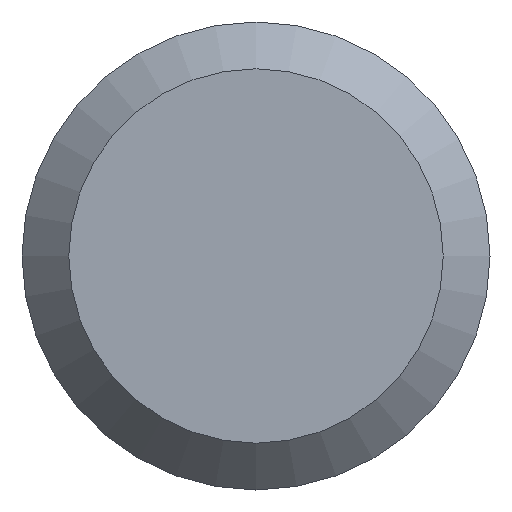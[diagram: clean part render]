
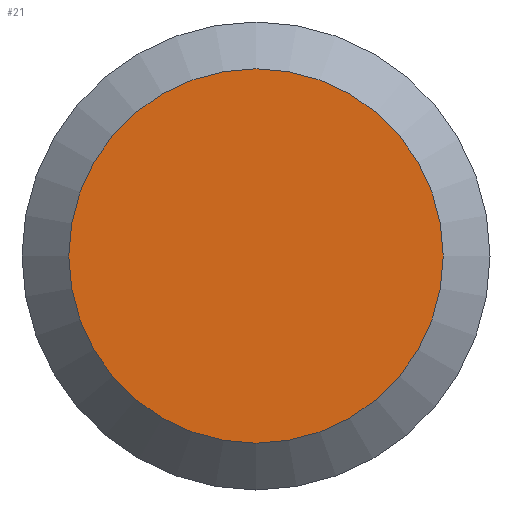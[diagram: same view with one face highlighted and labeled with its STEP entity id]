
A CAD part, left-side view. The second image highlights one B-rep face of the part: STEP entity #21.
In plain terms, the highlighted planar face has unit normal (-1, 0, 0).
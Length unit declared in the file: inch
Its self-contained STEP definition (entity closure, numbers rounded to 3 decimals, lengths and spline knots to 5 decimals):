
#4 = AXIS2_PLACEMENT_3D ( 'NONE', #109, #87, #64 ) ;
#12 = EDGE_LOOP ( 'NONE', ( #60 ) ) ;
#20 = AXIS2_PLACEMENT_3D ( 'NONE', #154, #76, #188 ) ;
#21 = ADVANCED_FACE ( 'NONE', ( #126 ), #30, .F. ) ;
#30 = PLANE ( 'NONE',  #20 ) ;
#60 = ORIENTED_EDGE ( 'NONE', *, *, #123, .T. ) ;
#64 = DIRECTION ( 'NONE',  ( 0., 0., -1. ) ) ;
#76 = DIRECTION ( 'NONE',  ( 1., 0., 0. ) ) ;
#87 = DIRECTION ( 'NONE',  ( -1., 0., 0. ) ) ;
#109 = CARTESIAN_POINT ( 'NONE',  ( 0., 0., 0. ) ) ;
#123 = EDGE_CURVE ( 'NONE', #210, #210, #191, .T. ) ;
#126 = FACE_OUTER_BOUND ( 'NONE', #12, .T. ) ;
#153 = CARTESIAN_POINT ( 'NONE',  ( 0., 0., -0.0268 ) ) ;
#154 = CARTESIAN_POINT ( 'NONE',  ( 0., 0.0335, 0. ) ) ;
#188 = DIRECTION ( 'NONE',  ( 0., 0., -1. ) ) ;
#191 = CIRCLE ( 'NONE', #4, 0.0268 ) ;
#210 = VERTEX_POINT ( 'NONE', #153 ) ;
